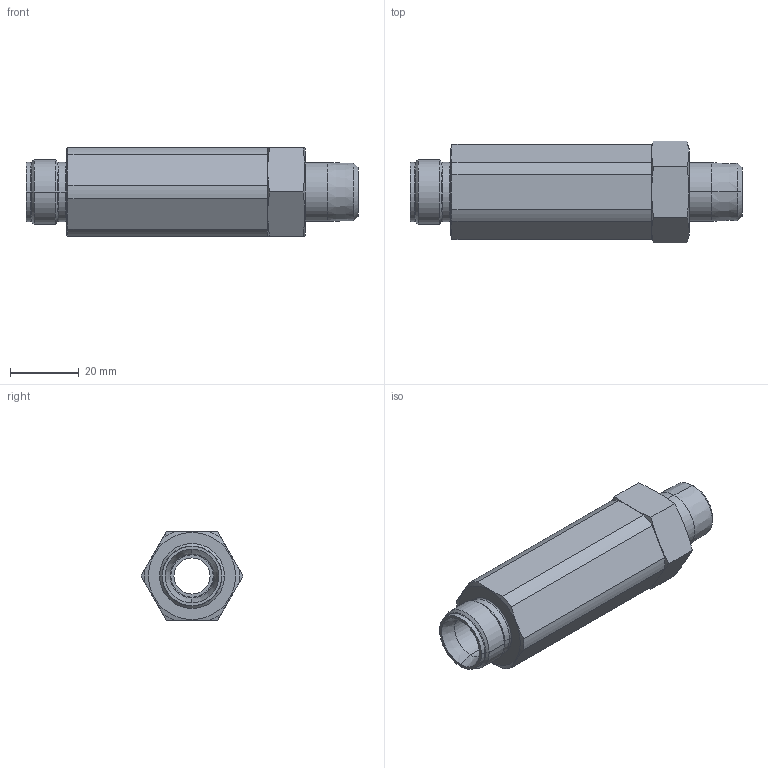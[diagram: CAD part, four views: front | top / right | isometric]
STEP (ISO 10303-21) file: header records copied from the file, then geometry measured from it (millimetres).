
FILE_DESCRIPTION (( 'STEP AP214' ), '1' );
FILE_NAME ('CILX0509800B.STEP', '2022-08-05T13:55:48', ( '' ), ( '' ), 'SwSTEP 2.0', 'SolidWorks 2021', '' );
FILE_SCHEMA (( 'AUTOMOTIVE_DESIGN' ));
Length unit declared in the file: inch
Products named in the file (1): CILX0509800B
Bounding box: 96.9 x 29.77 x 25.78 mm (x, y, z)
Volume: 36777.5 mm3; surface area: 11783 mm2
Topology: 1 solids, 1 shells, 60 faces, 140 edges, 86 vertices
Faces by surface type: cylinder 18, plane 18, cone 16, torus 8
Entity records: 1870 total; most frequent: CARTESIAN_POINT 423, DIRECTION 302, ORIENTED_EDGE 280, EDGE_CURVE 140, AXIS2_PLACEMENT_3D 125, VERTEX_POINT 86, EDGE_LOOP 66, CIRCLE 64
